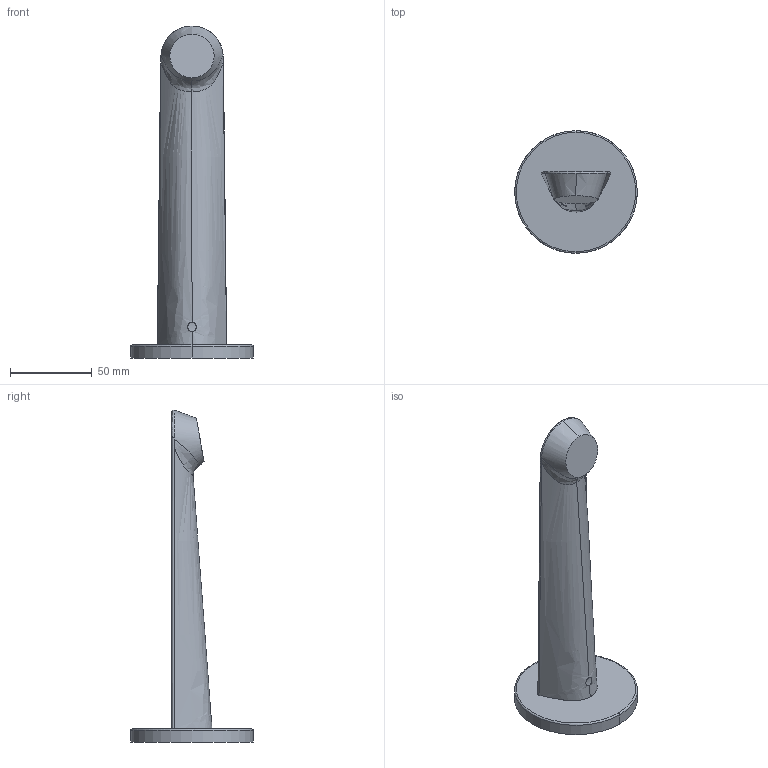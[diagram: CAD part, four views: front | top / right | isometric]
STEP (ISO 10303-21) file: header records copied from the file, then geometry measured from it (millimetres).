
FILE_DESCRIPTION (( 'STEP AP203' ), '1' );
FILE_NAME ('37502100(2025).STEP', '2025-01-22T12:21:05', ( '' ), ( '' ), 'SwSTEP 2.0', 'SolidWorks 2024', '' );
FILE_SCHEMA (( 'CONFIG_CONTROL_DESIGN' ));
Length unit declared in the file: millimetre
Products named in the file (1): 37502100(2025)
Bounding box: 75 x 75 x 203 mm (x, y, z)
Volume: 135597.8 mm3; surface area: 29033.6 mm2
Topology: 1 solids, 1 shells, 20 faces, 47 edges, 30 vertices
Faces by surface type: bspline 14, plane 4, cylinder 2
Entity records: 4304 total; most frequent: CARTESIAN_POINT 3867, ORIENTED_EDGE 94, EDGE_CURVE 47, DIRECTION 37, B_SPLINE_CURVE_WITH_KNOTS 31, VERTEX_POINT 30, EDGE_LOOP 21, FACE_OUTER_BOUND 20
